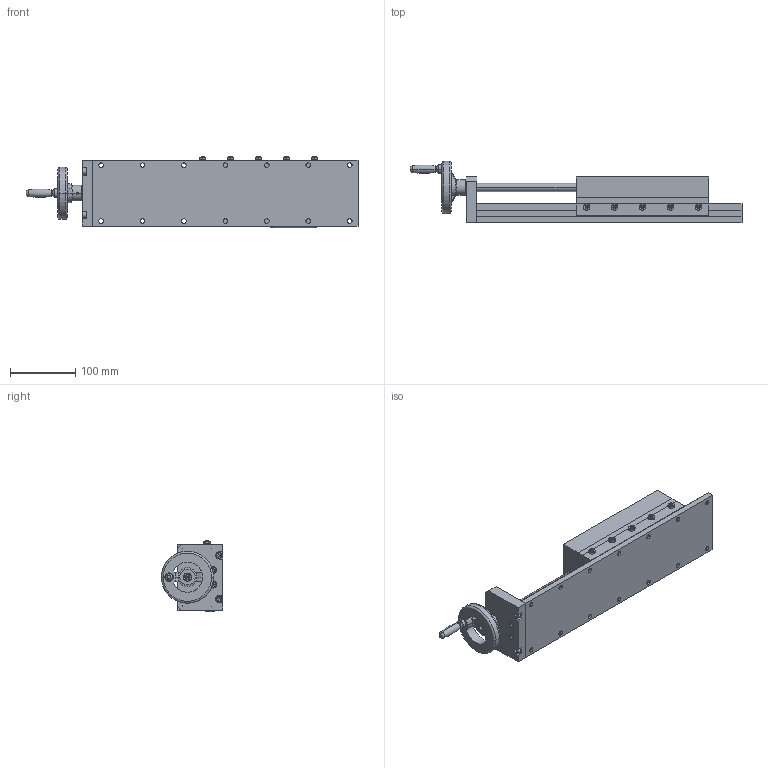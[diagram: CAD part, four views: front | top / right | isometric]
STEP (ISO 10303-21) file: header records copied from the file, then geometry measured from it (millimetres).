
FILE_DESCRIPTION (( 'STEP AP214' ), '1' );
FILE_NAME ('SW04-SL08-BL16-LS.STEP', '2011-11-04T18:47:00', ( '' ), ( '' ), 'SwSTEP 2.0', 'SolidWorks 2011', '' );
FILE_SCHEMA (( 'AUTOMOTIVE_DESIGN' ));
Length unit declared in the file: inch
Products named in the file (27): socket head cap screw_ai_HX-SHCS 0.19-32x0.5x0.5-N; spring pin slotted_ai_SPS 0.125x1; AHTNK80; EW-10; socket head cap screw_ai_HX-SHCS 0.25-20x0.75x0.75-N; 7806K64; Gen2 End Plate_04 EPLATE; socket head cap screw_ai_HX-SHCS 0.25-20x0.5x0.5-N; EW-20; Lead Screw_1_2-10 x 08.88 Lg; spring pin slotted_ai_SPS 0.1875x1.25; Lead Nut_1_2-10; socket head cap screw_ai_HX-SHCS 0.25-20x1.25x1.25-N; Gen2 Nut Plate_04x08 NPLATE; Gen2 SLIDE_SW04-SL08-BL16; Gen2 SADDLE_04x08 SADDLE; machine screw nut hex_ai_MSHXNUT 0.190-32-D-N; socket set screw cup point_ai_SSCUPSKT 0.19-32x0.875-HX-N; Tag; Gen2 Bar_04x08 BAR; Gen2 Adj Gib_04x08 ADJ GIB; Gen2 Gib_04x08 GIB; Gen2 Top plate_04x08 TPLATE; Gen2 BASE_04x16 BASE; Gen2 Hardplate_04x16 HPLATE; Gen2 Baseplate_04x16 BASE; SW04-SL08-BL16-LS
Assembly tree (41 placements, depth 4):
  SW04-SL08-BL16-LS
    socket head cap screw_ai_HX-SHCS 0.19-32x0.5x0.5-N
    AHTNK80
    spring pin slotted_ai_SPS 0.125x1
    Lead Screw_1_2-10 x 08.88 Lg
    Gen2 Nut Plate_04x08 NPLATE
    Gen2 SLIDE_SW04-SL08-BL16
      Gen2 SADDLE_04x08 SADDLE
        socket set screw cup point_ai_SSCUPSKT 0.19-32x0.875-HX-N  x5
        Gen2 Top plate_04x08 TPLATE
        machine screw nut hex_ai_MSHXNUT 0.190-32-D-N  x5
        Gen2 Adj Gib_04x08 ADJ GIB
        Tag
        Gen2 Gib_04x08 GIB
        Gen2 Bar_04x08 BAR
      Gen2 BASE_04x16 BASE
        Gen2 Hardplate_04x16 HPLATE
        Gen2 Baseplate_04x16 BASE
    socket head cap screw_ai_HX-SHCS 0.25-20x1.25x1.25-N  x4
    Gen2 End Plate_04 EPLATE
    EW-20
    socket head cap screw_ai_HX-SHCS 0.25-20x0.75x0.75-N  x4
    EW-10
    spring pin slotted_ai_SPS 0.1875x1.25
    7806K64  x2
    socket head cap screw_ai_HX-SHCS 0.25-20x0.5x0.5-N
    Lead Nut_1_2-10
Bounding box: 508.7 x 93.97 x 109.14 mm (x, y, z)
Volume: 1935721.9 mm3; surface area: 451042.5 mm2
Topology: 59 solids, 59 shells, 1056 faces, 2486 edges, 1451 vertices
Faces by surface type: plane 399, cylinder 301, cone 216, bspline 84, torus 54, sphere 2
Entity records: 22979 total; most frequent: CARTESIAN_POINT 5654, DIRECTION 3366, ORIENTED_EDGE 2966, EDGE_CURVE 1483, AXIS2_PLACEMENT_3D 1336, VERTEX_POINT 942, EDGE_LOOP 817, VECTOR 694
